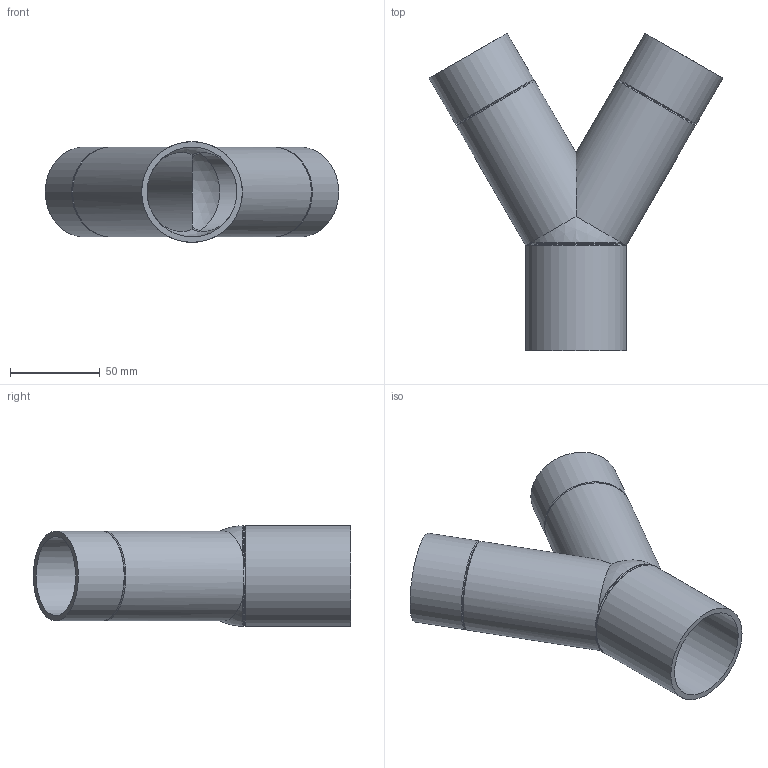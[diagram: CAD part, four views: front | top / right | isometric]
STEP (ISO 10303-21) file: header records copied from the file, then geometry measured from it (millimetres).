
FILE_DESCRIPTION(/* description */ (''),/* implementation_level */ '2;1');
FILE_NAME(/* name */ 'Z:\Geberit\Export\NewStep\363462.stp',/* time_stamp */ '2014-04-01T21:09:05+02:00',/* author */ ('nelson'),/* organization */ (''),/* preprocessor_version */ 'ST-DEVELOPER v15.2',/* originating_system */ 'Autodesk Inventor 2014',/* authorisation */ '');
FILE_SCHEMA (('AUTOMOTIVE_DESIGN { 1 0 10303 214 3 1 1 }'));
Length unit declared in the file: millimetre
Products named in the file (1): 363462
Bounding box: 163.3 x 176.42 x 56 mm (x, y, z)
Volume: 125214.5 mm3; surface area: 84148 mm2
Topology: 1 solids, 1 shells, 28 faces, 70 edges, 43 vertices
Faces by surface type: cylinder 13, cone 6, sphere 5, plane 4
Full cylindrical faces by diameter (mm): 44 x2, 50 x5, 56 x1
Entity records: 817 total; most frequent: CARTESIAN_POINT 195, DIRECTION 134, ORIENTED_EDGE 94, AXIS2_PLACEMENT_3D 67, EDGE_CURVE 47, EDGE_LOOP 45, CIRCLE 34, VERTEX_POINT 34
